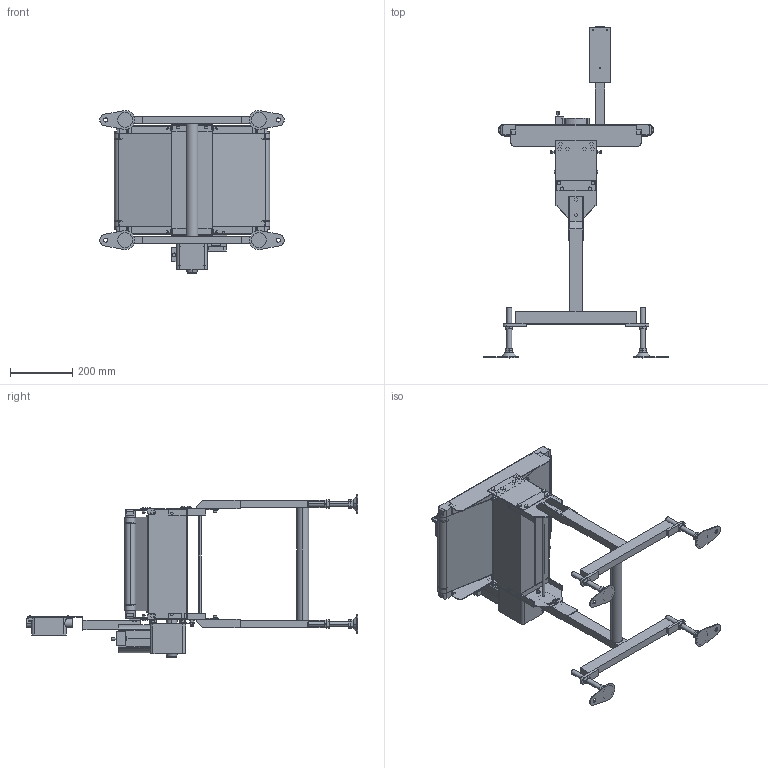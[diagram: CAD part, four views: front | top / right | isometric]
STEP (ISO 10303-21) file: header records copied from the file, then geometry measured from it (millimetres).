
FILE_DESCRIPTION( (''), '2;1');
FILE_NAME ('FSD-HS-309-300-50-R-K-60.stp','2025-01-30T17:01:16',(''),(''),'spGate 20.6.2 (****-****-****-****)','','');
FILE_SCHEMA (('AUTOMOTIVE_DESIGN'));
Length unit declared in the file: millimetre
Products named in the file (50): NewModel; TEMP_X_T-prt0; TEMP_X_T-prt1; TEMP_X_T-prt2; TEMP_X_T-prt3; TEMP_X_T-prt4; TEMP_X_T-prt5; TEMP_X_T-prt6; TEMP_X_T-prt7; TEMP_X_T-prt8; TEMP_X_T-prt9; TEMP_X_T-prt10; TEMP_X_T-prt11; TEMP_X_T-prt12; TEMP_X_T-prt13; TEMP_X_T-prt14; TEMP_X_T-prt15; TEMP_X_T-prt16; TEMP_X_T-prt17; TEMP_X_T-prt18; TEMP_X_T-prt19; TEMP_X_T-prt20; TEMP_X_T-prt21; TEMP_X_T-prt22; TEMP_X_T-prt23; TEMP_X_T-prt24; TEMP_X_T-prt25; TEMP_X_T-prt26; TEMP_X_T-prt27; TEMP_X_T-prt28; TEMP_X_T-prt29; TEMP_X_T-prt30; TEMP_X_T-prt31; TEMP_X_T-prt32; TEMP_X_T-prt33; TEMP_X_T-prt34; TEMP_X_T-prt35; TEMP_X_T-prt36; TEMP_X_T-prt37; TEMP_X_T-prt38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
Assembly tree (49 placements, depth 2):
  NewModel
    TEMP_X_T-prt0
    TEMP_X_T-prt1
    TEMP_X_T-prt2
    TEMP_X_T-prt3
    TEMP_X_T-prt4
    TEMP_X_T-prt5
    TEMP_X_T-prt6
    TEMP_X_T-prt7
    TEMP_X_T-prt8
    TEMP_X_T-prt9
    TEMP_X_T-prt10
    TEMP_X_T-prt11
    TEMP_X_T-prt12
    TEMP_X_T-prt13
    TEMP_X_T-prt14
    TEMP_X_T-prt15
    TEMP_X_T-prt16
    TEMP_X_T-prt17
    TEMP_X_T-prt18
    TEMP_X_T-prt19
    TEMP_X_T-prt20
    TEMP_X_T-prt21
    TEMP_X_T-prt22
    TEMP_X_T-prt23
    TEMP_X_T-prt24
    TEMP_X_T-prt25
    TEMP_X_T-prt26
    TEMP_X_T-prt27
    TEMP_X_T-prt28
    TEMP_X_T-prt29
    TEMP_X_T-prt30
    TEMP_X_T-prt31
    TEMP_X_T-prt32
    TEMP_X_T-prt33
    TEMP_X_T-prt34
    TEMP_X_T-prt35
    TEMP_X_T-prt36
    TEMP_X_T-prt37
    TEMP_X_T-prt38
    TEMP_X_T-prt39
    TEMP_X_T-prt40
    TEMP_X_T-prt41
    TEMP_X_T-prt42
    TEMP_X_T-prt43
    TEMP_X_T-prt44
    TEMP_X_T-prt45
    TEMP_X_T-prt46
    TEMP_X_T-prt47
    TEMP_X_T-prt48
Bounding box: 594 x 1069.5 x 525 mm (x, y, z)
Volume: 12577146.4 mm3; surface area: 2690339.7 mm2
Topology: 49 solids, 49 shells, 1625 faces, 4030 edges, 2656 vertices
Faces by surface type: plane 1115, cylinder 475, bspline 35
Entity records: 82913 total; most frequent: CARTESIAN_POINT 9663, DIRECTION 8103, ORIENTED_EDGE 8060, COLOUR_RGB 5704, PRESENTATION_STYLE_ASSIGNMENT 5704, STYLED_ITEM 5704, EDGE_CURVE 4030, DRAUGHTING_PRE_DEFINED_CURVE_FONT 4030
